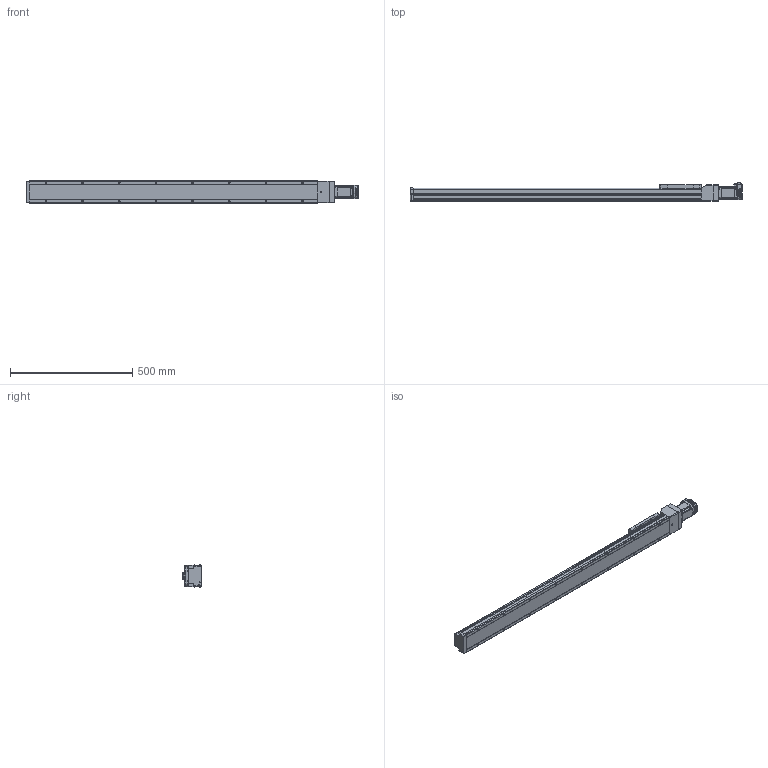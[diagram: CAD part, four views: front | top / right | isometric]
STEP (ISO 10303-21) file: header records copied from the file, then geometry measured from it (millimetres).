
FILE_DESCRIPTION (( 'STEP AP214' ), '1' );
FILE_NAME ('LEFS3(+)-40NM1仩-1000-23L.STEP', '2023-06-02T05:22:25', ( '' ), ( '' ), 'SwSTEP 2.0', 'SolidWorks 2019', '' );
FILE_SCHEMA (( 'AUTOMOTIVE_DESIGN' ));
Length unit declared in the file: millimetre
Products named in the file (5): LEFS3(+)-40NM1仩-1000-23L; LEFS3(+)-40NM1_TABLE; LEFS3(+)-40NM1?_BODY_1000; CM3(+)-23L50A_4-M4; LEFS3(+)-40NM1_Motor Flange
Assembly tree (4 placements, depth 2):
  LEFS3(+)-40NM1仩-1000-23L
    LEFS3(+)-40NM1?_BODY_1000
    LEFS3(+)-40NM1_TABLE
    LEFS3(+)-40NM1_Motor Flange
    CM3(+)-23L50A_4-M4
Bounding box: 1357.6 x 76.75 x 90 mm (x, y, z)
Volume: 5656234.9 mm3; surface area: 483363.9 mm2
Topology: 5 solids, 14 shells, 1666 faces, 4329 edges, 2680 vertices
Faces by surface type: plane 764, cylinder 531, bspline 133, cone 117, torus 74, sphere 47
Entity records: 56517 total; most frequent: CARTESIAN_POINT 14081, ORIENTED_EDGE 8508, DIRECTION 7950, EDGE_CURVE 4254, AXIS2_PLACEMENT_3D 2712, VERTEX_POINT 2680, LINE 2526, VECTOR 2526
